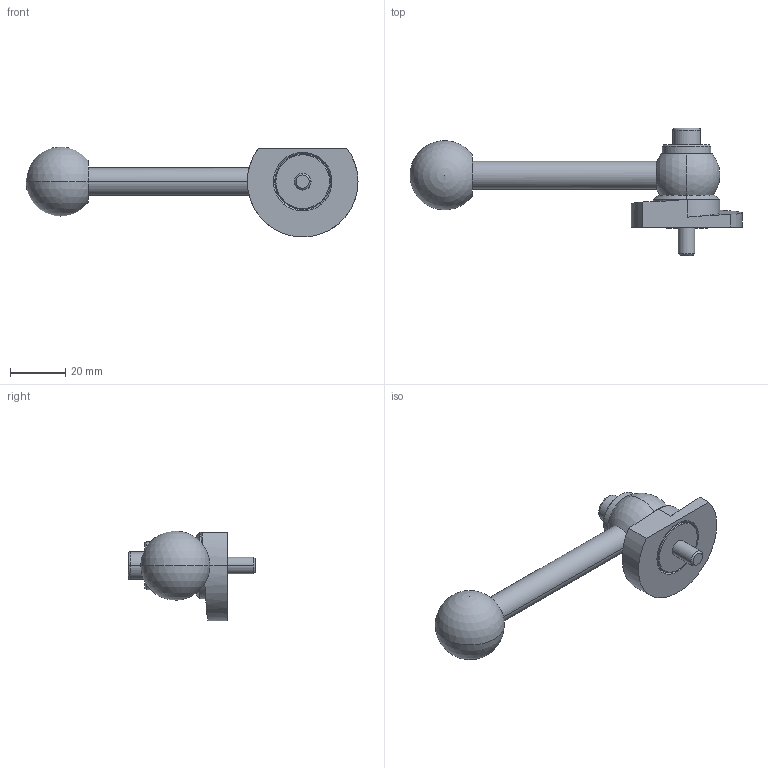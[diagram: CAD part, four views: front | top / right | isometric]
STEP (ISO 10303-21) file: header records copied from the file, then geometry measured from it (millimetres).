
FILE_DESCRIPTION (( 'STEP AP214' ), '1' );
FILE_NAME ('918.1-40-GVS-R-10.step', '2024-05-15T12:59:35', ( '' ), ( '' ), 'SwSTEP 2.0', 'SolidWorks 2022', '' );
FILE_SCHEMA (( 'AUTOMOTIVE_DESIGN' ));
Length unit declared in the file: millimetre
Products named in the file (1): 918.1-40-GVS-R-10
Bounding box: 120 x 46 x 32.5 mm (x, y, z)
Volume: 29790.5 mm3; surface area: 10927.6 mm2
Topology: 1 solids, 1 shells, 64 faces, 147 edges, 93 vertices
Faces by surface type: cylinder 22, plane 20, cone 14, sphere 4, torus 2, bspline 2
Entity records: 2045 total; most frequent: CARTESIAN_POINT 590, DIRECTION 321, ORIENTED_EDGE 274, EDGE_CURVE 137, AXIS2_PLACEMENT_3D 131, VERTEX_POINT 87, EDGE_LOOP 76, CIRCLE 68
